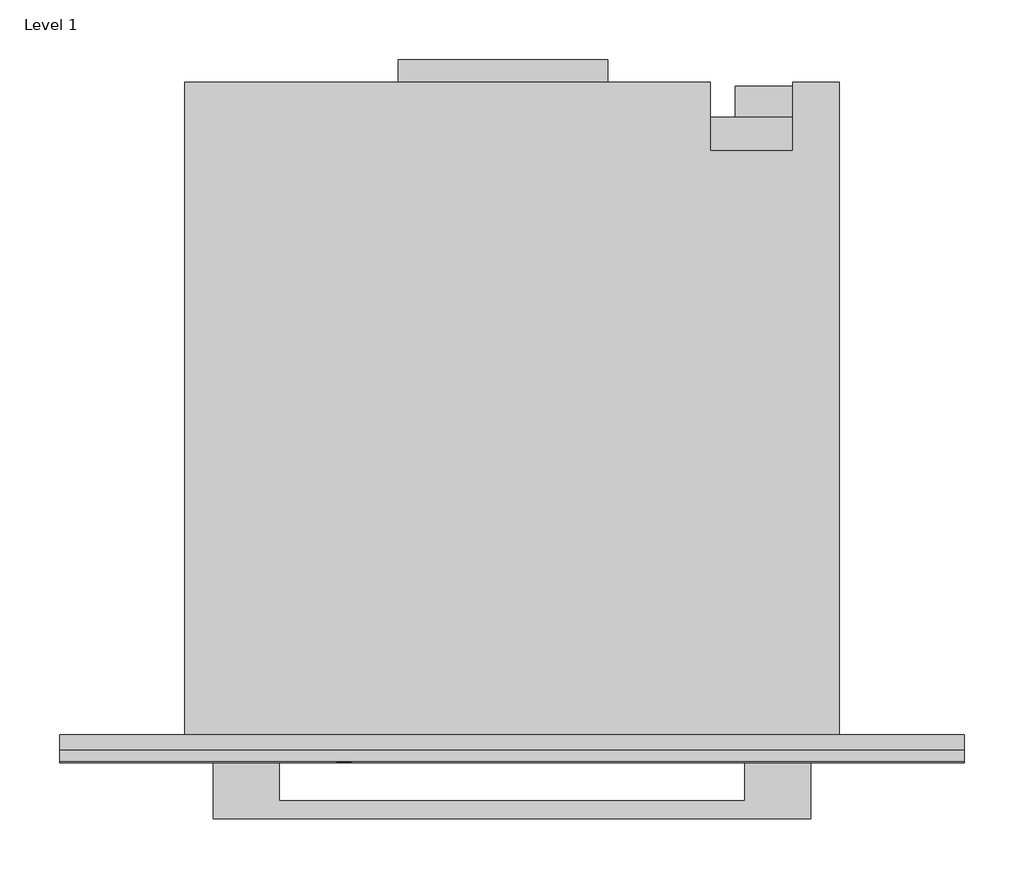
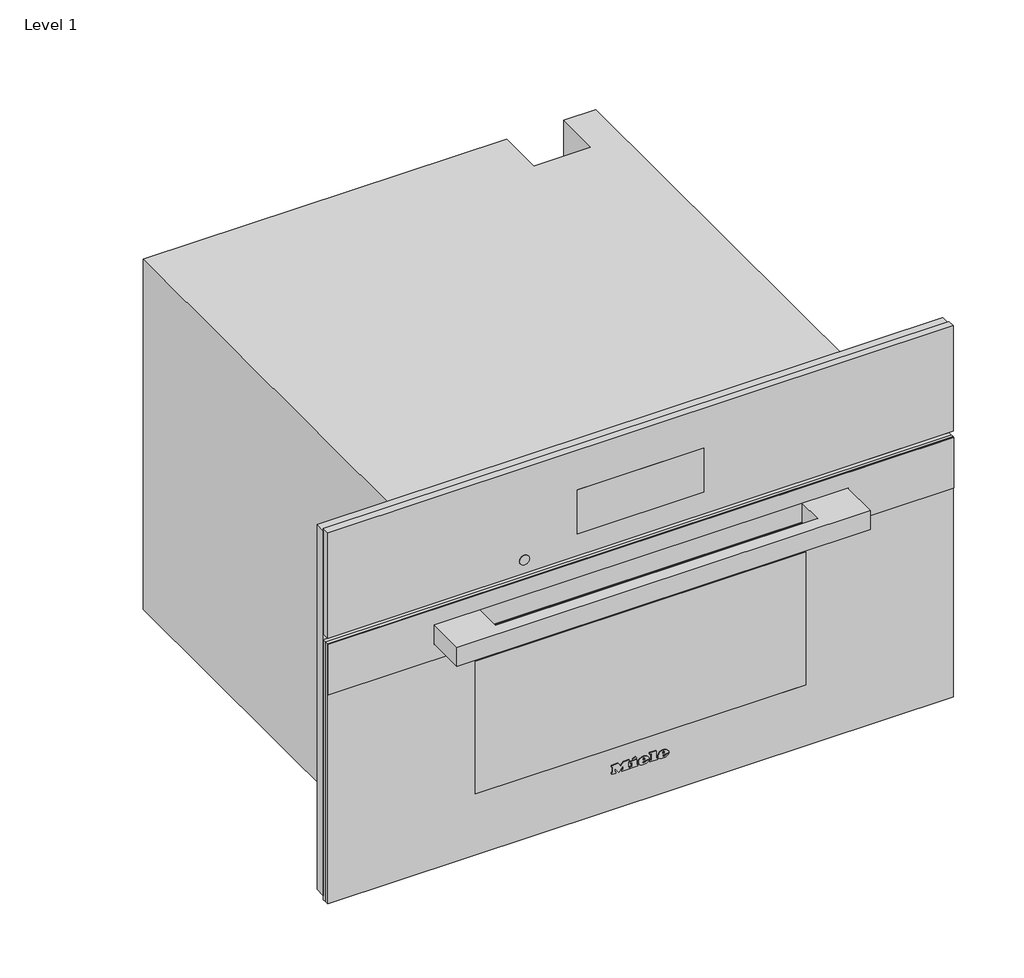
# One storey: 1 proxy.
"""IFC4 building model written with IfcOpenShell, lengths in millimetres."""

from ifc_helpers import new_model, si_unit, origin, place, context, project, spatial, transform, mapped, element, save
from components import specialty_equipment_35e1a356

model = new_model("IFC4")

# Units and contexts
model_context = context("Model", 3, world=origin())
ifc_project = project(units=[si_unit("LENGTHUNIT", "METRE", prefix="MILLI")], contexts=[model_context])

# Site, building, storey
site = spatial("IfcSite", under=ifc_project)
building = spatial("IfcBuilding", under=site)
storey = spatial("IfcBuildingStorey", under=building, Name="Level 1", Elevation=0.0)

# Proxy
placement = place(None, origin())
specialty_equipment_shape = specialty_equipment_35e1a356(model_context)
element("IfcBuildingElementProxy", 1, Name="11876080_USA_DGC7870_EDST-CLST : 23787042_USA_11876080_DGC7870_EDST-CLST", ObjectType="11876080_USA_DGC7870_EDST-CLST : 23787042_USA_11876080_DGC7870_EDST-CLST", at=placement, inside=storey, context=model_context, shape_type="MappedRepresentation", body=[
    mapped(specialty_equipment_shape, transform((0.0, 0.0, 0.0), x_axis=(1.0, 0.0, 0.0), y_axis=(0.0, 1.0, 0.0), z_axis=(0.0, 0.0, 1.0))),
])

save(model, "model.ifc")
